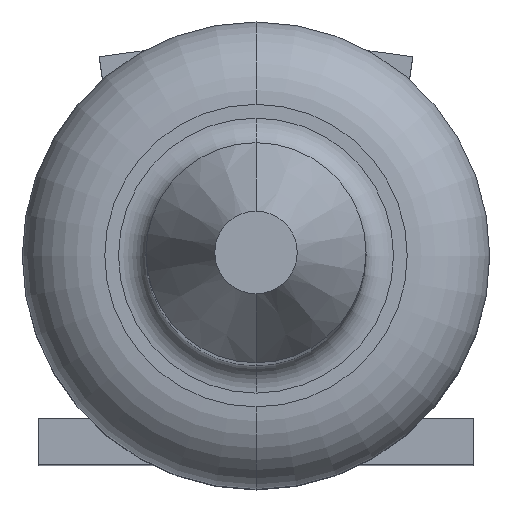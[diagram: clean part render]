
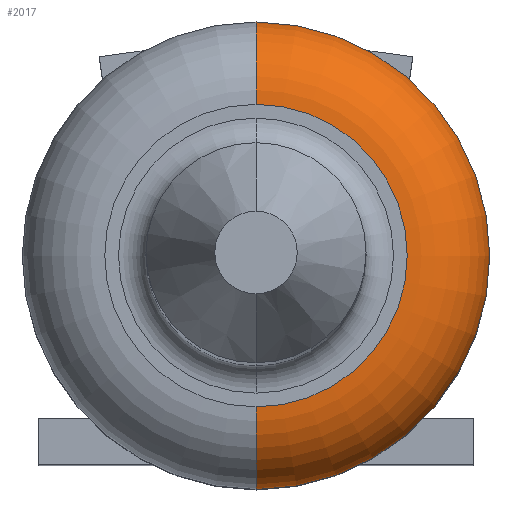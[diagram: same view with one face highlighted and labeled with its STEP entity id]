
A CAD part, top view. The second image highlights one B-rep face of the part: STEP entity #2017.
In plain terms, the highlighted toroidal (fillet/blend) face has major radius 0.699 mm and minor radius 0.381 mm.
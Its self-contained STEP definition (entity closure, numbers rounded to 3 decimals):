
#527=CARTESIAN_POINT('',(0.,0.,-8.623));
#528=DIRECTION('',(0.,0.,-1.));
#529=DIRECTION('',(0.,1.,0.));
#530=AXIS2_PLACEMENT_3D('',#527,#528,#529);
#532=CARTESIAN_POINT('',(0.,0.699,-8.623));
#533=DIRECTION('',(1.,0.,0.));
#534=DIRECTION('',(0.,1.,0.));
#535=AXIS2_PLACEMENT_3D('',#532,#533,#534);
#537=CARTESIAN_POINT('',(0.,-0.699,-8.623));
#538=DIRECTION('',(-1.,0.,0.));
#539=DIRECTION('',(0.,-1.,0.));
#540=AXIS2_PLACEMENT_3D('',#537,#538,#539);
#547=CARTESIAN_POINT('',(0.,0.,-8.242));
#548=DIRECTION('',(0.,0.,-1.));
#549=DIRECTION('',(0.,1.,0.));
#550=AXIS2_PLACEMENT_3D('',#547,#548,#549);
#1156=CARTESIAN_POINT('',(0.,1.08,-8.623));
#1158=VERTEX_POINT('',#1156);
#1166=CARTESIAN_POINT('',(0.,-1.08,-8.623));
#1168=VERTEX_POINT('',#1166);
#1177=CARTESIAN_POINT('',(0.,0.699,-8.242));
#1178=VERTEX_POINT('',#1177);
#1181=CARTESIAN_POINT('',(0.,-0.699,-8.242));
#1182=VERTEX_POINT('',#1181);
#2003=CARTESIAN_POINT('',(0.,0.,-8.623));
#2004=DIRECTION('',(0.,0.,-1.));
#2005=DIRECTION('',(0.,-1.,0.));
#2006=AXIS2_PLACEMENT_3D('',#2003,#2004,#2005);
#2007=TOROIDAL_SURFACE('',#2006,0.699,0.381);
#2009=ORIENTED_EDGE('',*,*,#2008,.F.);
#2010=ORIENTED_EDGE('',*,*,#1998,.T.);
#2012=ORIENTED_EDGE('',*,*,#2011,.T.);
#2014=ORIENTED_EDGE('',*,*,#2013,.F.);
#2015=EDGE_LOOP('',(#2009,#2010,#2012,#2014));
#2016=FACE_OUTER_BOUND('',#2015,.F.);
#2017=ADVANCED_FACE('',(#2016),#2007,.T.);
#531=CIRCLE('',#530,1.08);
#536=CIRCLE('',#535,0.381);
#541=CIRCLE('',#540,0.381);
#551=CIRCLE('',#550,0.699);
#1998=EDGE_CURVE('',#1158,#1168,#531,.T.);
#2008=EDGE_CURVE('',#1158,#1178,#536,.T.);
#2011=EDGE_CURVE('',#1168,#1182,#541,.T.);
#2013=EDGE_CURVE('',#1178,#1182,#551,.T.);
